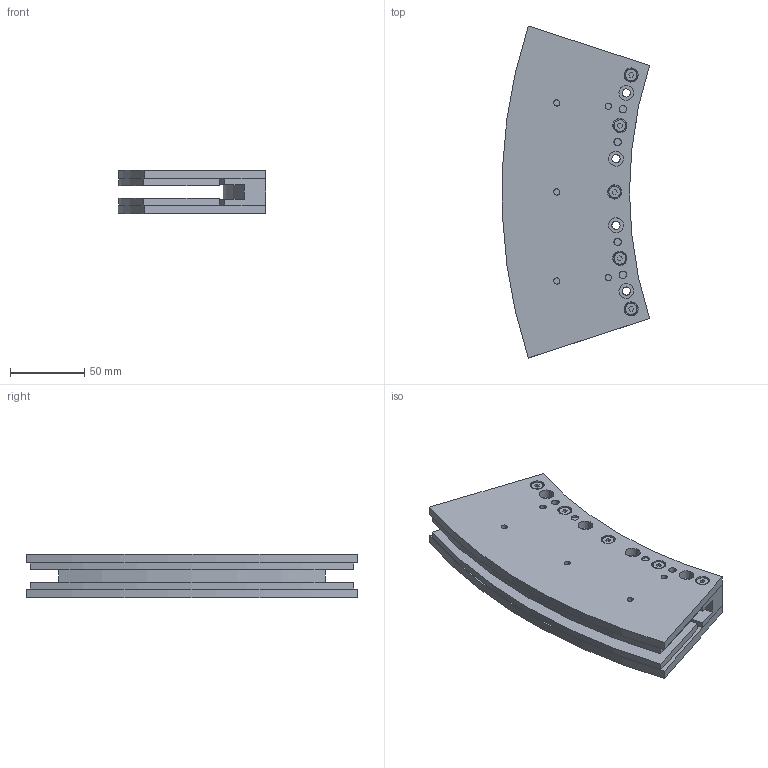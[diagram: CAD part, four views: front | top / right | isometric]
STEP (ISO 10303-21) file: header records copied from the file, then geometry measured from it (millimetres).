
FILE_DESCRIPTION (( 'STEP AP214' ), '1' );
FILE_NAME ('ARCM280-TA036 (CUSTOMER)_defeature.step', '2021-07-23T08:23:05', ( '' ), ( '' ), 'SwSTEP 2.0', 'SolidWorks 2020', '' );
FILE_SCHEMA (( 'AUTOMOTIVE_DESIGN' ));
Length unit declared in the file: millimetre
Products named in the file (1): ARCM280-TA036 (CUSTOMER)_defeature
Bounding box: 99.14 x 223.73 x 29.6 mm (x, y, z)
Volume: 367381.4 mm3; surface area: 89972 mm2
Topology: 1 solids, 20 shells, 392 faces, 868 edges, 556 vertices
Faces by surface type: cylinder 170, plane 158, cone 44, torus 20
Entity records: 12426 total; most frequent: DIRECTION 2076, CARTESIAN_POINT 1809, ORIENTED_EDGE 1720, EDGE_CURVE 860, AXIS2_PLACEMENT_3D 823, VERTEX_POINT 556, EDGE_LOOP 468, LINE 430
